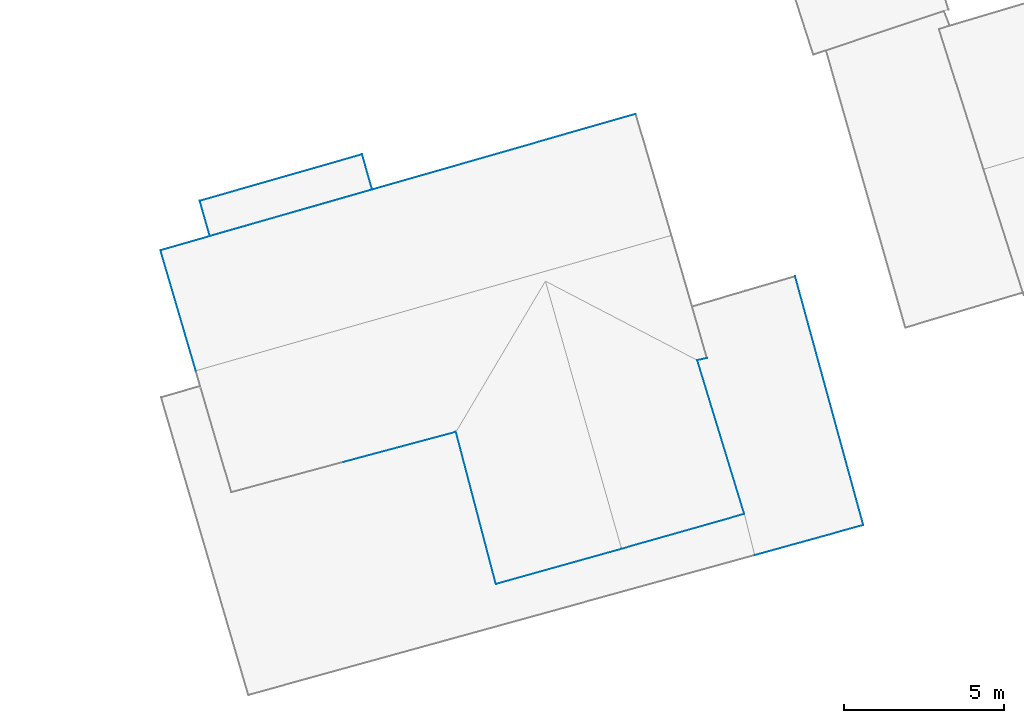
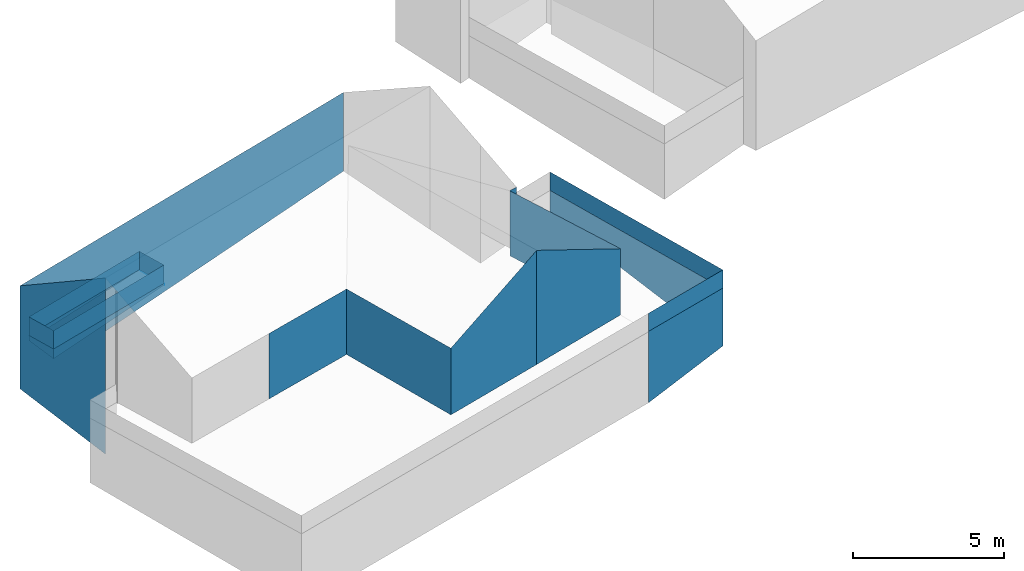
# Not in any storey, part 17 of 57: 26 walls.
"""IFC4 building model written with IfcOpenShell, lengths in metres."""

from ifc_helpers import new_model, entity, si_unit, converted_unit, origin, place, context, subcontext, project, spatial, face_set, surface_model, element, save


model = new_model("IFC4")

# Units and contexts
model_context = context("Model", 3, precision=1e-05, world=origin())
body_context = subcontext(model_context, "Body", "Model", "MODEL_VIEW")
ifc_project = project(units=[converted_unit("PLANEANGLEUNIT", "DEGREE", entity("IfcRatioMeasure", 0.0174532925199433), si_unit("PLANEANGLEUNIT", "RADIAN"), dimensions=[0, 0, 0, 0, 0, 0, 0]), si_unit("AREAUNIT", "SQUARE_METRE"), si_unit("LENGTHUNIT", "METRE")], contexts=[model_context])

# Site, building
site_placement = place(None, origin())
site = spatial("IfcSite", under=ifc_project, at=site_placement, Name="_site")
building_1_placement = place(site_placement, origin())
building_1 = spatial("IfcBuilding", under=site, at=building_1_placement, Name="_building")

# Walls
wall_1_placement = place(building_1_placement, origin())
element("IfcWall", 1, at=wall_1_placement, inside=building_1, Name="Wall", PredefinedType="NOTDEFINED", context=body_context, shape_type="SurfaceModel", body=[
    surface_model("IfcFaceBasedSurfaceModel", [(96.304, 136.703, 116.92), (101.371, 138.156, 116.92), (101.371, 138.156, 116.905), (96.304, 136.703, 116.713)], [face_set([[[0, 1, 2, 3]]])]),
])
wall_2_placement = place(building_1_placement, origin())
element("IfcWall", 2, at=wall_2_placement, inside=building_1, Name="Wall", PredefinedType="NOTDEFINED", context=body_context, shape_type="SurfaceModel", body=[
    surface_model("IfcFaceBasedSurfaceModel", [(105.549, 124.74, 120.42), (104.3, 129.492, 120.37), (104.3, 129.492, 117.72), (105.549, 124.74, 117.72)], [face_set([[[0, 1, 2, 3]]])]),
])
wall_3_placement = place(building_1_placement, origin())
element("IfcWall", 3, at=wall_3_placement, inside=building_1, Name="Wall", PredefinedType="NOTDEFINED", context=body_context, shape_type="SurfaceModel", body=[
    surface_model("IfcFaceBasedSurfaceModel", [(96.618, 135.605, 116.92), (96.304, 136.703, 116.92), (96.304, 136.703, 116.713), (96.618, 135.605, 116.525)], [face_set([[[0, 1, 2, 3]]])]),
])
wall_4_placement = place(building_1_placement, origin())
element("IfcWall", 4, at=wall_4_placement, inside=building_1, Name="Wall", PredefinedType="NOTDEFINED", context=body_context, shape_type="SurfaceModel", body=[
    surface_model("IfcFaceBasedSurfaceModel", [(109.468, 125.839, 122.34), (105.549, 124.74, 120.42), (105.549, 124.74, 117.72), (109.468, 125.839, 117.72)], [face_set([[[0, 1, 2, 3]]])]),
])
wall_5_placement = place(building_1_placement, origin())
element("IfcWall", 5, at=wall_5_placement, inside=building_1, Name="Wall", PredefinedType="NOTDEFINED", context=body_context, shape_type="SurfaceModel", body=[
    surface_model("IfcFaceBasedSurfaceModel", [(101.685, 137.058, 116.92), (96.618, 135.605, 116.92), (96.618, 135.605, 116.525), (101.685, 137.058, 116.854)], [face_set([[[0, 1, 2, 3]]])]),
])
wall_6_placement = place(building_1_placement, origin())
element("IfcWall", 6, at=wall_6_placement, inside=building_1, Name="Wall", PredefinedType="NOTDEFINED", context=body_context, shape_type="SurfaceModel", body=[
    surface_model("IfcFaceBasedSurfaceModel", [(101.371, 138.156, 116.92), (101.685, 137.058, 116.92), (101.685, 137.058, 116.854), (101.371, 138.156, 116.905)], [face_set([[[0, 1, 2, 3]]])]),
])
wall_7_placement = place(building_1_placement, origin())
element("IfcWall", 7, at=wall_7_placement, inside=building_1, Name="Wall", PredefinedType="NOTDEFINED", context=body_context, shape_type="SurfaceModel", body=[
    surface_model("IfcFaceBasedSurfaceModel", [(95.077, 135.161, 120.29), (109.915, 139.417, 120.34), (109.915, 139.417, 117.155), (95.077, 135.161, 116.124)], [face_set([[[0, 1, 2, 3]]])]),
])
wall_8_placement = place(building_1_placement, origin())
element("IfcWall", 8, at=wall_8_placement, inside=building_1, Name="Wall", PredefinedType="NOTDEFINED", context=body_context, shape_type="SurfaceModel", body=[
    surface_model("IfcFaceBasedSurfaceModel", [(104.3, 129.492, 120.37), (100.796, 128.553, 120.37), (100.796, 128.553, 117.72), (104.3, 129.492, 117.72)], [face_set([[[0, 1, 2, 3]]])]),
])
wall_9_placement = place(building_1_placement, origin())
element("IfcWall", 9, at=wall_9_placement, inside=building_1, Name="Wall", PredefinedType="NOTDEFINED", context=body_context, shape_type="SurfaceModel", body=[
    surface_model("IfcFaceBasedSurfaceModel", [(96.18, 131.403, 122.5), (95.077, 135.161, 120.29), (95.077, 135.161, 116.124), (96.18, 131.403, 115.368)], [face_set([[[0, 1, 2, 3]]])]),
])
wall_10_placement = place(building_1_placement, origin())
element("IfcWall", 10, at=wall_10_placement, inside=building_1, Name="Wall", PredefinedType="NOTDEFINED", context=body_context, shape_type="SurfaceModel", body=[
    surface_model("IfcFaceBasedSurfaceModel", [(111.837, 131.727, 120.35), (113.305, 126.93, 120.4), (113.305, 126.93, 117.72), (111.837, 131.727, 117.72)], [face_set([[[0, 1, 2, 3]]])]),
])
wall_11_placement = place(building_1_placement, origin())
element("IfcWall", 11, at=wall_11_placement, inside=building_1, Name="Wall", PredefinedType="NOTDEFINED", context=body_context, shape_type="SurfaceModel", body=[
    surface_model("IfcFaceBasedSurfaceModel", [(112.139, 131.8, 120.35), (111.837, 131.727, 120.35), (111.837, 131.727, 117.72), (112.139, 131.8, 117.72)], [face_set([[[0, 1, 2, 3]]])]),
])
wall_12_placement = place(building_1_placement, origin())
element("IfcWall", 12, at=wall_12_placement, inside=building_1, Name="Wall", PredefinedType="NOTDEFINED", context=body_context, shape_type="SurfaceModel", body=[
    surface_model("IfcFaceBasedSurfaceModel", [(113.305, 126.93, 120.4), (109.468, 125.839, 122.34), (109.468, 125.839, 117.72), (113.305, 126.93, 117.72)], [face_set([[[0, 1, 2, 3]]])]),
])
wall_13_placement = place(building_1_placement, origin())
element("IfcWall", 13, at=wall_13_placement, inside=building_1, Name="Wall", PredefinedType="NOTDEFINED", context=body_context, shape_type="SurfaceModel", body=[
    surface_model("IfcFaceBasedSurfaceModel", [(96.304, 136.703, 116.92), (101.371, 138.156, 116.92), (101.371, 138.156, 117.67), (96.304, 136.703, 117.67)], [face_set([[[0, 1, 2, 3]]])]),
])
wall_14_placement = place(building_1_placement, origin())
element("IfcWall", 14, at=wall_14_placement, inside=building_1, Name="Wall", PredefinedType="NOTDEFINED", context=body_context, shape_type="SurfaceModel", body=[
    surface_model("IfcFaceBasedSurfaceModel", [(96.618, 135.605, 116.92), (96.304, 136.703, 116.92), (96.304, 136.703, 117.67), (96.618, 135.605, 117.67)], [face_set([[[0, 1, 2, 3]]])]),
])
wall_15_placement = place(building_1_placement, origin())
element("IfcWall", 15, at=wall_15_placement, inside=building_1, Name="Wall", PredefinedType="NOTDEFINED", context=body_context, shape_type="SurfaceModel", body=[
    surface_model("IfcFaceBasedSurfaceModel", [(101.371, 138.156, 116.92), (101.685, 137.058, 116.92), (101.685, 137.058, 117.67), (101.371, 138.156, 117.67)], [face_set([[[0, 1, 2, 3]]])]),
])
wall_16_placement = place(building_1_placement, origin())
element("IfcWall", 16, at=wall_16_placement, inside=building_1, Name="Wall", PredefinedType="NOTDEFINED", context=body_context, shape_type="SurfaceModel", body=[
    surface_model("IfcFaceBasedSurfaceModel", [(101.685, 137.058, 116.92), (96.618, 135.605, 116.92), (96.618, 135.605, 117.67), (101.685, 137.058, 117.67)], [face_set([[[0, 1, 2, 3]]])]),
])
wall_17_placement = place(building_1_placement, origin())
element("IfcWall", 17, at=wall_17_placement, inside=building_1, Name="Wall", PredefinedType="NOTDEFINED", context=body_context, shape_type="SurfaceModel", body=[
    surface_model("IfcFaceBasedSurfaceModel", [(96.304, 136.703, 116.92), (101.371, 138.156, 116.92), (101.371, 138.156, 117.67), (96.304, 136.703, 117.67)], [face_set([[[0, 1, 2, 3]]])]),
])
wall_18_placement = place(building_1_placement, origin())
element("IfcWall", 18, at=wall_18_placement, inside=building_1, Name="Wall", PredefinedType="NOTDEFINED", context=body_context, shape_type="SurfaceModel", body=[
    surface_model("IfcFaceBasedSurfaceModel", [(101.685, 137.058, 116.92), (96.618, 135.605, 116.92), (96.618, 135.605, 117.67), (101.685, 137.058, 117.67)], [face_set([[[0, 1, 2, 3]]])]),
])
wall_19_placement = place(building_1_placement, origin())
element("IfcWall", 19, at=wall_19_placement, inside=building_1, Name="Wall", PredefinedType="NOTDEFINED", context=body_context, shape_type="SurfaceModel", body=[
    surface_model("IfcFaceBasedSurfaceModel", [(101.371, 138.156, 116.92), (101.685, 137.058, 116.92), (101.685, 137.058, 117.67), (101.371, 138.156, 117.67)], [face_set([[[0, 1, 2, 3]]])]),
])
wall_20_placement = place(building_1_placement, origin())
element("IfcWall", 20, at=wall_20_placement, inside=building_1, Name="Wall", PredefinedType="NOTDEFINED", context=body_context, shape_type="SurfaceModel", body=[
    surface_model("IfcFaceBasedSurfaceModel", [(96.618, 135.605, 116.92), (96.304, 136.703, 116.92), (96.304, 136.703, 117.67), (96.618, 135.605, 117.67)], [face_set([[[0, 1, 2, 3]]])]),
])

# Building
building_2_placement = place(site_placement, origin())
building_2 = spatial("IfcBuilding", under=site, at=building_2_placement, Name="_building")

# Walls
wall_21_placement = place(building_2_placement, origin())
element("IfcWall", 21, at=wall_21_placement, inside=building_2, Name="Wall", PredefinedType="NOTDEFINED", context=body_context, shape_type="SurfaceModel", body=[
    surface_model("IfcFaceBasedSurfaceModel", [(117.02, 126.583, 117.72), (113.626, 125.643, 117.72), (113.626, 125.643, 114.829), (117.02, 126.583, 115.376)], [face_set([[[0, 1, 2, 3]]])]),
])
wall_22_placement = place(building_2_placement, origin())
element("IfcWall", 22, at=wall_22_placement, inside=building_2, Name="Wall", PredefinedType="NOTDEFINED", context=body_context, shape_type="SurfaceModel", body=[
    surface_model("IfcFaceBasedSurfaceModel", [(114.89, 134.347, 117.72), (117.02, 126.583, 117.72), (117.02, 126.583, 115.376), (114.89, 134.347, 116.769)], [face_set([[[0, 1, 2, 3]]])]),
])
wall_23_placement = place(building_2_placement, origin())
element("IfcWall", 23, at=wall_23_placement, inside=building_2, Name="Wall", PredefinedType="NOTDEFINED", context=body_context, shape_type="SurfaceModel", body=[
    surface_model("IfcFaceBasedSurfaceModel", [(117.02, 126.583, 117.704), (114.89, 134.347, 117.704), (114.89, 134.347, 118.454), (117.02, 126.583, 118.454)], [face_set([[[0, 1, 2, 3]]])]),
])
wall_24_placement = place(building_2_placement, origin())
element("IfcWall", 24, at=wall_24_placement, inside=building_2, Name="Wall", PredefinedType="NOTDEFINED", context=body_context, shape_type="SurfaceModel", body=[
    surface_model("IfcFaceBasedSurfaceModel", [(113.626, 125.643, 117.704), (117.02, 126.583, 117.704), (117.02, 126.583, 118.454), (113.626, 125.643, 118.454)], [face_set([[[0, 1, 2, 3]]])]),
])
wall_25_placement = place(building_2_placement, origin())
element("IfcWall", 25, at=wall_25_placement, inside=building_2, Name="Wall", PredefinedType="NOTDEFINED", context=body_context, shape_type="SurfaceModel", body=[
    surface_model("IfcFaceBasedSurfaceModel", [(117.02, 126.583, 117.704), (114.89, 134.347, 117.704), (114.89, 134.347, 118.454), (117.02, 126.583, 118.454)], [face_set([[[0, 1, 2, 3]]])]),
])
wall_26_placement = place(building_2_placement, origin())
element("IfcWall", 26, at=wall_26_placement, inside=building_2, Name="Wall", PredefinedType="NOTDEFINED", context=body_context, shape_type="SurfaceModel", body=[
    surface_model("IfcFaceBasedSurfaceModel", [(113.626, 125.643, 117.704), (117.02, 126.583, 117.704), (117.02, 126.583, 118.454), (113.626, 125.643, 118.454)], [face_set([[[0, 1, 2, 3]]])]),
])

save(model, "model.ifc")
